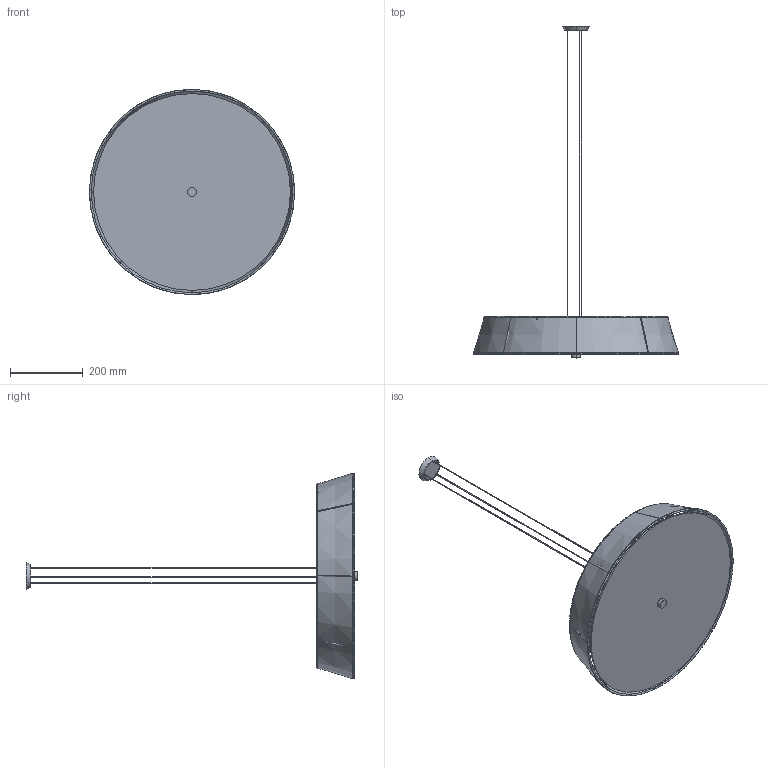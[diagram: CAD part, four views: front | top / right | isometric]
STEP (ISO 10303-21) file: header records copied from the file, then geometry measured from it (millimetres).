
FILE_DESCRIPTION (( 'STEP AP203' ), '1' );
FILE_NAME ('LILITH S 55_STEP.STEP', '2015-12-03T13:27:20', ( 'admin' ), ( '' ), 'SwSTEP 2.0', 'SolidWorks 2015', '' );
FILE_SCHEMA (( 'CONFIG_CONTROL_DESIGN' ));
Length unit declared in the file: millimetre
Products named in the file (2): LILITH S 55_STEP
Bounding box: 565.46 x 914.53 x 565.46 mm (x, y, z)
Volume: 1179749.7 mm3; surface area: 927063.5 mm2
Topology: 10 solids, 10 shells, 123 faces, 386 edges, 264 vertices
Faces by surface type: cylinder 62, plane 33, bspline 20, cone 8
Entity records: 8420 total; most frequent: CARTESIAN_POINT 5100, ORIENTED_EDGE 756, DIRECTION 572, EDGE_CURVE 378, VERTEX_POINT 264, AXIS2_PLACEMENT_3D 249, CIRCLE 144, EDGE_LOOP 144
